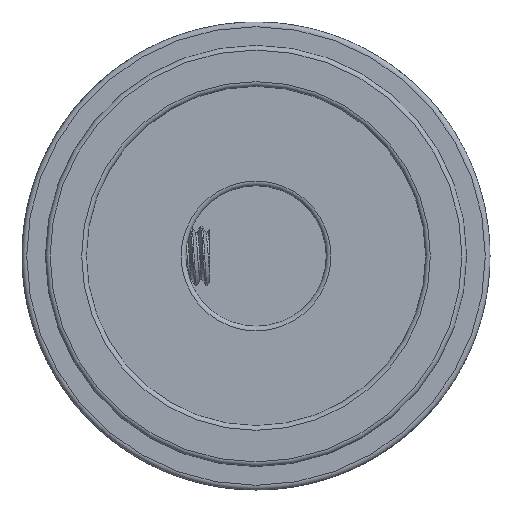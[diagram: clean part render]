
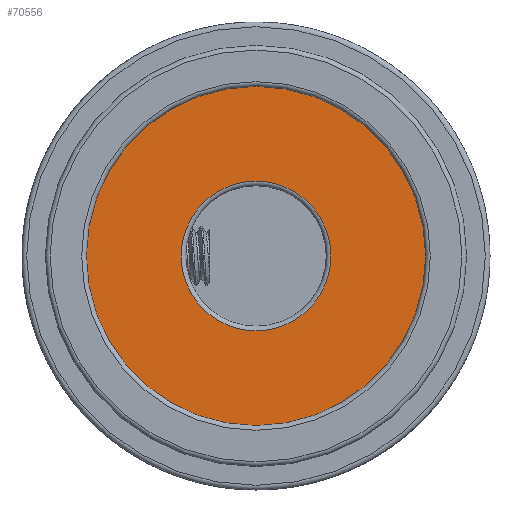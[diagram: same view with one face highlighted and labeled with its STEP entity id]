
A CAD part, front view. The second image highlights one B-rep face of the part: STEP entity #70556.
In plain terms, the highlighted planar face has unit normal (0, -1, 0).
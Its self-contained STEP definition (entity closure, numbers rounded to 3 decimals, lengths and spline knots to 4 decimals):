
#23=FACE_BOUND('',#14801,.T.);
#253=PLANE('',#72291);
#9515=FACE_OUTER_BOUND('',#14800,.T.);
#14800=EDGE_LOOP('',(#64174));
#14801=EDGE_LOOP('',(#64175));
#15232=CIRCLE('',#72289,3.2);
#15234=CIRCLE('',#72292,7.25);
#31428=VERTEX_POINT('',#199237);
#31429=VERTEX_POINT('',#199241);
#42344=EDGE_CURVE('',#31428,#31428,#15232,.T.);
#42346=EDGE_CURVE('',#31429,#31429,#15234,.T.);
#64174=ORIENTED_EDGE('',*,*,#42346,.F.);
#64175=ORIENTED_EDGE('',*,*,#42344,.F.);
#70556=ADVANCED_FACE('',(#9515,#23),#253,.T.);
#72289=AXIS2_PLACEMENT_3D('',#199238,#75789,#75790);
#72291=AXIS2_PLACEMENT_3D('',#199240,#75793,#75794);
#72292=AXIS2_PLACEMENT_3D('',#199242,#75795,#75796);
#75789=DIRECTION('center_axis',(0.,-1.,0.));
#75790=DIRECTION('ref_axis',(1.,0.,0.));
#75793=DIRECTION('center_axis',(0.,-1.,0.));
#75794=DIRECTION('ref_axis',(1.,0.,0.));
#75795=DIRECTION('center_axis',(0.,1.,0.));
#75796=DIRECTION('ref_axis',(1.,0.,0.));
#199237=CARTESIAN_POINT('',(0.,2.5,-3.2));
#199238=CARTESIAN_POINT('Origin',(0.,2.5,0.));
#199240=CARTESIAN_POINT('Origin',(0.,2.5,0.));
#199241=CARTESIAN_POINT('',(-7.25,2.5,0.));
#199242=CARTESIAN_POINT('Origin',(0.,2.5,0.));
